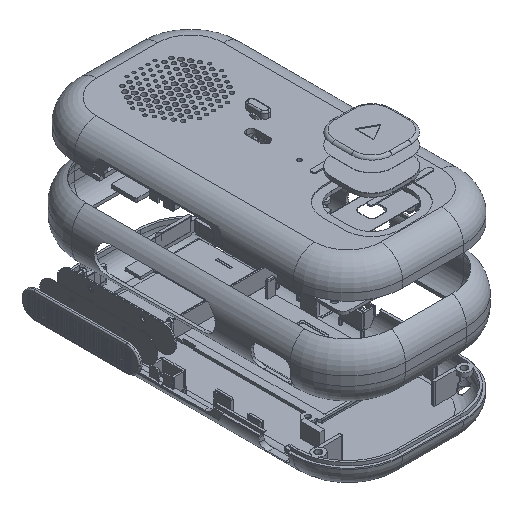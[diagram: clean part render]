
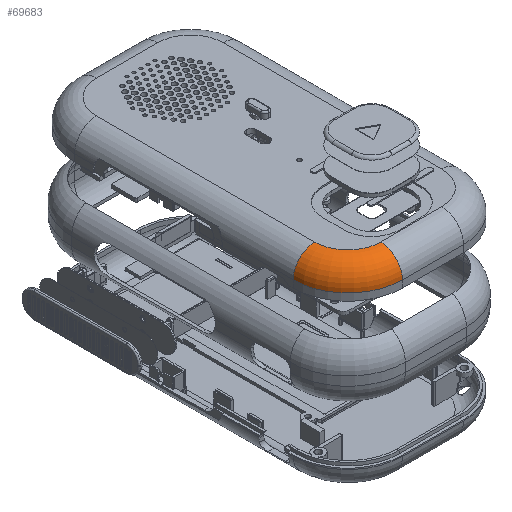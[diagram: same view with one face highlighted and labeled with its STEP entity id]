
A CAD part, isometric view. The second image highlights one B-rep face of the part: STEP entity #69683.
In plain terms, the highlighted toroidal (fillet/blend) face has major radius 15 mm and minor radius 10 mm.
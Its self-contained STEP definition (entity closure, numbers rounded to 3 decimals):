
#25270 = PLANE('',#25271);
#25271 = AXIS2_PLACEMENT_3D('',#25272,#25273,#25274);
#25272 = CARTESIAN_POINT('',(0.,0.,0.));
#25273 = DIRECTION('',(0.,0.,-1.));
#25274 = DIRECTION('',(-1.,0.,0.));
#51292 = VERTEX_POINT('',#51293);
#51293 = CARTESIAN_POINT('',(-14.,-65.,0.));
#51307 = CYLINDRICAL_SURFACE('',#51308,10.);
#51308 = AXIS2_PLACEMENT_3D('',#51309,#51310,#51311);
#51309 = CARTESIAN_POINT('',(7.,-65.,-10.));
#51310 = DIRECTION('',(-1.,0.,0.));
#51311 = DIRECTION('',(0.,-0.707,0.707));
#51319 = EDGE_CURVE('',#51292,#51320,#51322,.T.);
#51320 = VERTEX_POINT('',#51321);
#51321 = CARTESIAN_POINT('',(-29.,-50.,0.));
#51322 = SURFACE_CURVE('',#51323,(#51328,#51335),.PCURVE_S1.);
#51323 = CIRCLE('',#51324,15.);
#51324 = AXIS2_PLACEMENT_3D('',#51325,#51326,#51327);
#51325 = CARTESIAN_POINT('',(-14.,-50.,0.));
#51326 = DIRECTION('',(-0.,0.,-1.));
#51327 = DIRECTION('',(-0.707,-0.707,0.));
#51328 = PCURVE('',#25270,#51329);
#51329 = DEFINITIONAL_REPRESENTATION('',(#51330),#51334);
#51330 = CIRCLE('',#51331,15.);
#51331 = AXIS2_PLACEMENT_2D('',#51332,#51333);
#51332 = CARTESIAN_POINT('',(14.,-50.));
#51333 = DIRECTION('',(0.707,-0.707));
#51334 = ( GEOMETRIC_REPRESENTATION_CONTEXT(2) 
PARAMETRIC_REPRESENTATION_CONTEXT() REPRESENTATION_CONTEXT('2D SPACE',''
  ) );
#51335 = PCURVE('',#51336,#51341);
#51336 = TOROIDAL_SURFACE('',#51337,15.,10.);
#51337 = AXIS2_PLACEMENT_3D('',#51338,#51339,#51340);
#51338 = CARTESIAN_POINT('',(-14.,-50.,-10.));
#51339 = DIRECTION('',(0.,0.,-1.));
#51340 = DIRECTION('',(-1.,0.,0.));
#51341 = DEFINITIONAL_REPRESENTATION('',(#51342),#51346);
#51342 = LINE('',#51343,#51344);
#51343 = CARTESIAN_POINT('',(-0.785,4.712));
#51344 = VECTOR('',#51345,1.);
#51345 = DIRECTION('',(1.,0.));
#51346 = ( GEOMETRIC_REPRESENTATION_CONTEXT(2) 
PARAMETRIC_REPRESENTATION_CONTEXT() REPRESENTATION_CONTEXT('2D SPACE',''
  ) );
#51364 = CYLINDRICAL_SURFACE('',#51365,10.);
#51365 = AXIS2_PLACEMENT_3D('',#51366,#51367,#51368);
#51366 = CARTESIAN_POINT('',(-29.,-25.,-10.));
#51367 = DIRECTION('',(0.,1.,0.));
#51368 = DIRECTION('',(-0.707,0.,0.707));
#69632 = EDGE_CURVE('',#51292,#69633,#69635,.T.);
#69633 = VERTEX_POINT('',#69634);
#69634 = CARTESIAN_POINT('',(-14.,-75.,-10.));
#69635 = SURFACE_CURVE('',#69636,(#69641,#69648),.PCURVE_S1.);
#69636 = CIRCLE('',#69637,10.);
#69637 = AXIS2_PLACEMENT_3D('',#69638,#69639,#69640);
#69638 = CARTESIAN_POINT('',(-14.,-65.,-10.));
#69639 = DIRECTION('',(1.,0.,0.));
#69640 = DIRECTION('',(0.,0.,1.));
#69641 = PCURVE('',#51307,#69642);
#69642 = DEFINITIONAL_REPRESENTATION('',(#69643),#69647);
#69643 = LINE('',#69644,#69645);
#69644 = CARTESIAN_POINT('',(7.069,21.));
#69645 = VECTOR('',#69646,1.);
#69646 = DIRECTION('',(-1.,0.));
#69647 = ( GEOMETRIC_REPRESENTATION_CONTEXT(2) 
PARAMETRIC_REPRESENTATION_CONTEXT() REPRESENTATION_CONTEXT('2D SPACE',''
  ) );
#69648 = PCURVE('',#51336,#69649);
#69649 = DEFINITIONAL_REPRESENTATION('',(#69650),#69654);
#69650 = LINE('',#69651,#69652);
#69651 = CARTESIAN_POINT('',(4.712,4.712));
#69652 = VECTOR('',#69653,1.);
#69653 = DIRECTION('',(0.,1.));
#69654 = ( GEOMETRIC_REPRESENTATION_CONTEXT(2) 
PARAMETRIC_REPRESENTATION_CONTEXT() REPRESENTATION_CONTEXT('2D SPACE',''
  ) );
#69683 = ADVANCED_FACE('',(#69684),#51336,.T.);
#69684 = FACE_BOUND('',#69685,.T.);
#69685 = EDGE_LOOP('',(#69686,#69710,#69737,#69738));
#69686 = ORIENTED_EDGE('',*,*,#69687,.T.);
#69687 = EDGE_CURVE('',#51320,#69688,#69690,.T.);
#69688 = VERTEX_POINT('',#69689);
#69689 = CARTESIAN_POINT('',(-39.,-50.,-10.));
#69690 = SURFACE_CURVE('',#69691,(#69696,#69703),.PCURVE_S1.);
#69691 = CIRCLE('',#69692,10.);
#69692 = AXIS2_PLACEMENT_3D('',#69693,#69694,#69695);
#69693 = CARTESIAN_POINT('',(-29.,-50.,-10.));
#69694 = DIRECTION('',(0.,-1.,0.));
#69695 = DIRECTION('',(0.,0.,1.));
#69696 = PCURVE('',#51336,#69697);
#69697 = DEFINITIONAL_REPRESENTATION('',(#69698),#69702);
#69698 = LINE('',#69699,#69700);
#69699 = CARTESIAN_POINT('',(6.283,4.712));
#69700 = VECTOR('',#69701,1.);
#69701 = DIRECTION('',(0.,1.));
#69702 = ( GEOMETRIC_REPRESENTATION_CONTEXT(2) 
PARAMETRIC_REPRESENTATION_CONTEXT() REPRESENTATION_CONTEXT('2D SPACE',''
  ) );
#69703 = PCURVE('',#51364,#69704);
#69704 = DEFINITIONAL_REPRESENTATION('',(#69705),#69709);
#69705 = LINE('',#69706,#69707);
#69706 = CARTESIAN_POINT('',(7.069,-25.));
#69707 = VECTOR('',#69708,1.);
#69708 = DIRECTION('',(-1.,0.));
#69709 = ( GEOMETRIC_REPRESENTATION_CONTEXT(2) 
PARAMETRIC_REPRESENTATION_CONTEXT() REPRESENTATION_CONTEXT('2D SPACE',''
  ) );
#69710 = ORIENTED_EDGE('',*,*,#69711,.T.);
#69711 = EDGE_CURVE('',#69688,#69633,#69712,.T.);
#69712 = SURFACE_CURVE('',#69713,(#69718,#69725),.PCURVE_S1.);
#69713 = CIRCLE('',#69714,25.);
#69714 = AXIS2_PLACEMENT_3D('',#69715,#69716,#69717);
#69715 = CARTESIAN_POINT('',(-14.,-50.,-10.));
#69716 = DIRECTION('',(0.,0.,1.));
#69717 = DIRECTION('',(-0.707,-0.707,0.));
#69718 = PCURVE('',#51336,#69719);
#69719 = DEFINITIONAL_REPRESENTATION('',(#69720),#69724);
#69720 = LINE('',#69721,#69722);
#69721 = CARTESIAN_POINT('',(11.781,6.283));
#69722 = VECTOR('',#69723,1.);
#69723 = DIRECTION('',(-1.,0.));
#69724 = ( GEOMETRIC_REPRESENTATION_CONTEXT(2) 
PARAMETRIC_REPRESENTATION_CONTEXT() REPRESENTATION_CONTEXT('2D SPACE',''
  ) );
#69725 = PCURVE('',#69726,#69731);
#69726 = CYLINDRICAL_SURFACE('',#69727,25.);
#69727 = AXIS2_PLACEMENT_3D('',#69728,#69729,#69730);
#69728 = CARTESIAN_POINT('',(-14.,-50.,0.));
#69729 = DIRECTION('',(0.,0.,-1.));
#69730 = DIRECTION('',(0.,-1.,0.));
#69731 = DEFINITIONAL_REPRESENTATION('',(#69732),#69736);
#69732 = LINE('',#69733,#69734);
#69733 = CARTESIAN_POINT('',(7.069,10.));
#69734 = VECTOR('',#69735,1.);
#69735 = DIRECTION('',(-1.,0.));
#69736 = ( GEOMETRIC_REPRESENTATION_CONTEXT(2) 
PARAMETRIC_REPRESENTATION_CONTEXT() REPRESENTATION_CONTEXT('2D SPACE',''
  ) );
#69737 = ORIENTED_EDGE('',*,*,#69632,.F.);
#69738 = ORIENTED_EDGE('',*,*,#51319,.T.);
